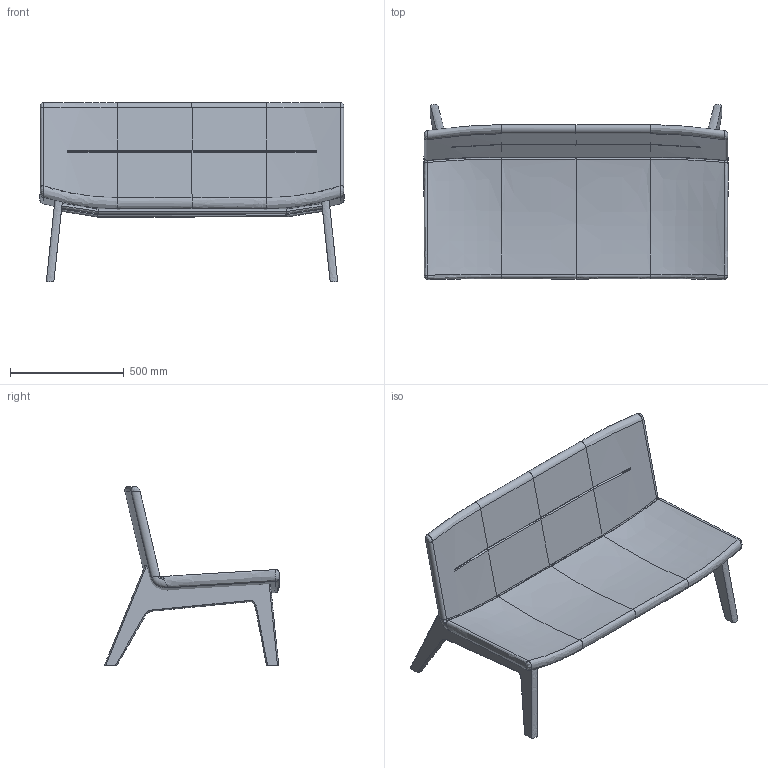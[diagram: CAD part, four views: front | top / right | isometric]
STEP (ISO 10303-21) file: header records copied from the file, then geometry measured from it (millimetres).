
FILE_DESCRIPTION(/* description */ (''),/* implementation_level */ '2;1');
FILE_NAME(/* name */ 'OSLO_L~1',/* time_stamp */ '2020-01-31T17:16:15+01:00',/* author */ (''),/* organization */ (''),/* preprocessor_version */ 'ST-DEVELOPER v16.5',/* originating_system */ '',/* authorisation */ '');
FILE_SCHEMA (('AUTOMOTIVE_DESIGN'));
Length unit declared in the file: millimetre
Products named in the file (1): Document
Bounding box: 1337.64 x 769.5 x 785.48 mm (x, y, z)
Surface area: 3484189.5 mm2
Topology: 3 solids, 10 shells, 144 faces, 371 edges, 220 vertices
Faces by surface type: bspline 144
Entity records: 17808 total; most frequent: CARTESIAN_POINT 15586, ORIENTED_EDGE 668, EDGE_CURVE 360, B_SPLINE_CURVE_WITH_KNOTS 267, VERTEX_POINT 218, EDGE_LOOP 152, ADVANCED_FACE 144, FACE_OUTER_BOUND 144
